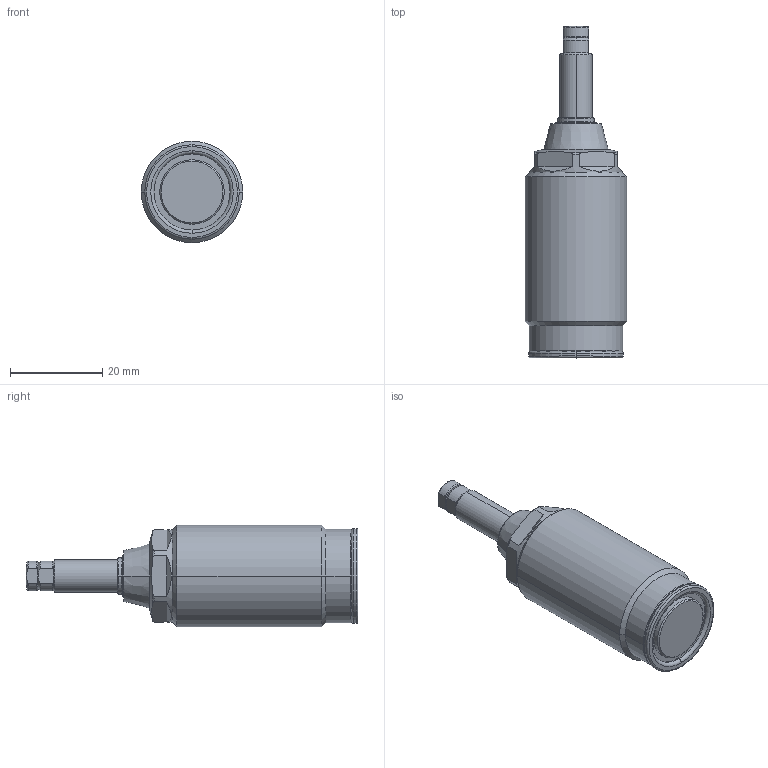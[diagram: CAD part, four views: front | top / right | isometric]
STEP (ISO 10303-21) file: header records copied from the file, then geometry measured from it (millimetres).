
FILE_DESCRIPTION(/* description */ (''),/* implementation_level */ '2;1');
FILE_NAME(/* name */ 'TNE22-Q.stp',/* time_stamp */ '2024-01-16T10:57:19+08:00',/* author */ (''),/* organization */ (''),/* preprocessor_version */ 'ST-DEVELOPER v16.7',/* originating_system */ 'SIEMENS PLM Software NX 12.0',/* authorisation */ '');
FILE_SCHEMA (('AP203_CONFIGURATION_CONTROLLED_3D_DESIGN_OF_MECHANICAL_PARTS_AND_ASSEMBLIES_MIM_LF { 1 0 10303 403 2 1 2}'));
Length unit declared in the file: millimetre
Products named in the file (7): XLD-M4_Oring807; XLD-M4_contactbolt2738; TNE22-Q-4; TNE22-Q-2; TNE22-Q-1; TNE22-Q-3; TNE22-Q_stp
Assembly tree (6 placements, depth 3):
  TNE22-Q_stp
    TNE22-Q-1
    TNE22-Q-2
    TNE22-Q-3
      XLD-M4_contactbolt2738
      XLD-M4_Oring807
    TNE22-Q-4
Bounding box: 22 x 72 x 22 mm (x, y, z)
Volume: 16968.1 mm3; surface area: 5297.4 mm2
Topology: 5 solids, 5 shells, 139 faces, 309 edges, 187 vertices
Faces by surface type: torus 40, cylinder 40, plane 34, cone 23, sphere 2
Full cylindrical faces by diameter (mm): 14 x1
Entity records: 4959 total; most frequent: CARTESIAN_POINT 1040, DIRECTION 733, ORIENTED_EDGE 612, AXIS2_PLACEMENT_3D 323, EDGE_CURVE 306, VERTEX_POINT 186, CIRCLE 177, EDGE_LOOP 154
